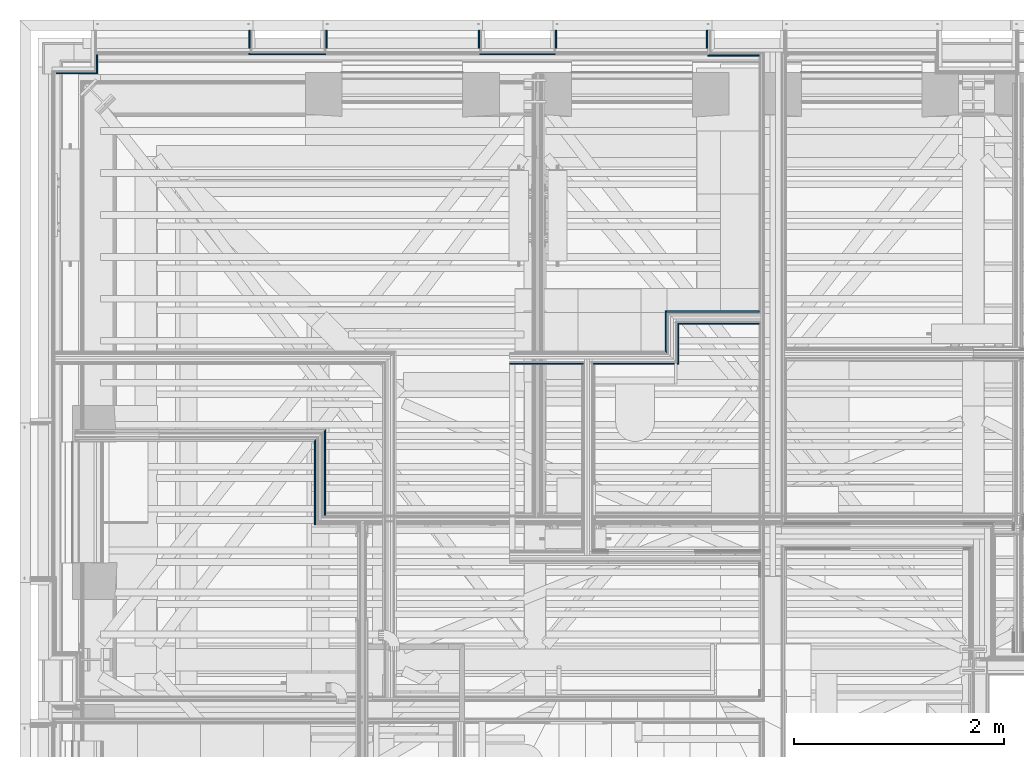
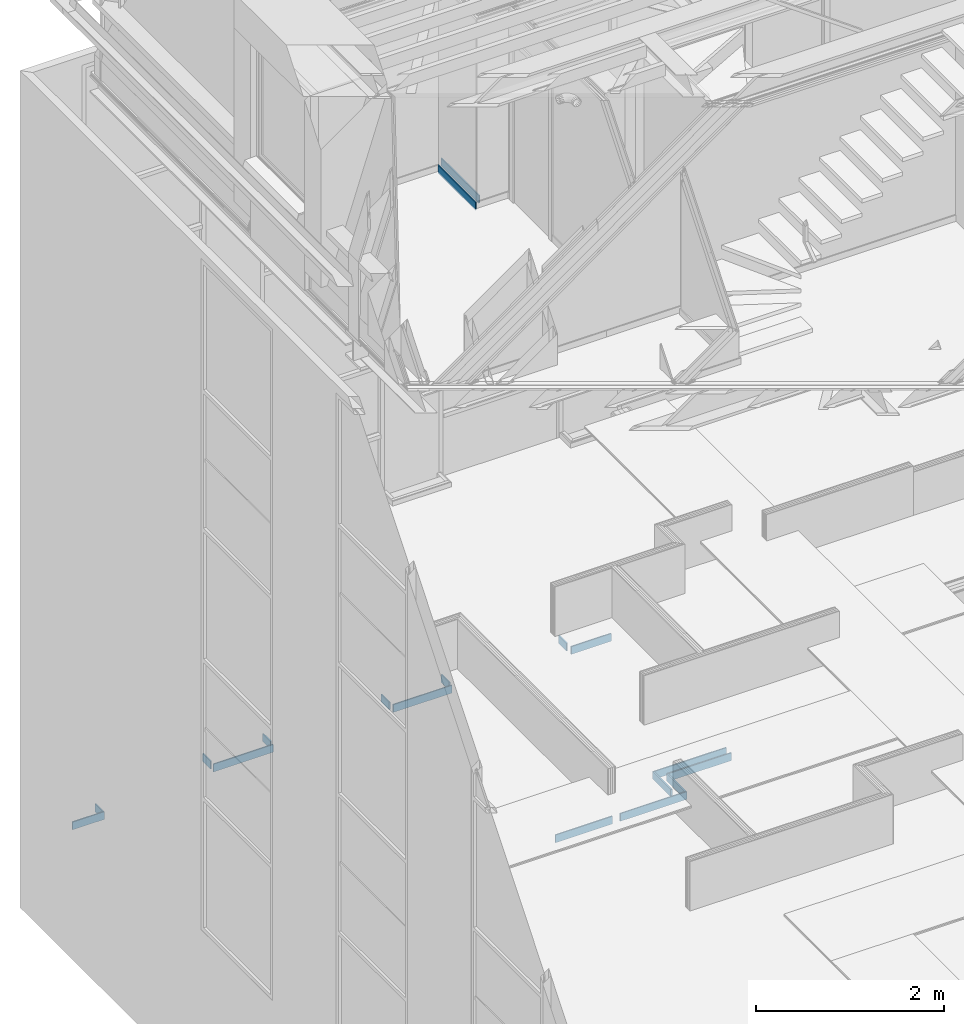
# One storey, part 72 of 183: 18 building element parts, 14 elements without a shape of their own.
"""IFC2X3 building model written with IfcOpenShell, lengths in metres."""

from ifc_helpers import new_model, entity, si_unit, converted_unit, derived_unit, money_unit, direction, frame, frame_2d, origin_with_axes, place, context, subcontext, project, spatial, polyline, rectangle, outline, extrude, material, type_object, element, aggregate, save


model = new_model("IFC2X3")

# Units and contexts
model_context = context("Model", 3, precision=1e-05, world=origin_with_axes(), true_north=direction((0.0, 1.0)))
body_context = subcontext(model_context, "Body", "Model", "MODEL_VIEW", scale=1.0)
ifc_project = project(units=[si_unit("LENGTHUNIT", "METRE"), si_unit("AREAUNIT", "SQUARE_METRE"), si_unit("VOLUMEUNIT", "CUBIC_METRE"), si_unit("ABSORBEDDOSEUNIT", "GRAY"), si_unit("AMOUNTOFSUBSTANCEUNIT", "MOLE"), si_unit("DOSEEQUIVALENTUNIT", "SIEVERT"), si_unit("ELECTRICCAPACITANCEUNIT", "FARAD"), si_unit("ELECTRICCHARGEUNIT", "COULOMB"), si_unit("ELECTRICCONDUCTANCEUNIT", "SIEMENS"), si_unit("ELECTRICCURRENTUNIT", "AMPERE"), si_unit("ELECTRICRESISTANCEUNIT", "OHM"), si_unit("ELECTRICVOLTAGEUNIT", "VOLT"), si_unit("ENERGYUNIT", "JOULE"), si_unit("FORCEUNIT", "NEWTON"), si_unit("FREQUENCYUNIT", "HERTZ"), si_unit("ILLUMINANCEUNIT", "LUX"), si_unit("INDUCTANCEUNIT", "HENRY"), si_unit("LUMINOUSFLUXUNIT", "LUMEN"), si_unit("LUMINOUSINTENSITYUNIT", "CANDELA"), si_unit("MAGNETICFLUXDENSITYUNIT", "TESLA"), si_unit("MAGNETICFLUXUNIT", "WEBER"), si_unit("MASSUNIT", "GRAM"), converted_unit("PLANEANGLEUNIT", "degree", entity("IfcReal", 0.0174532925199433), si_unit("PLANEANGLEUNIT", "RADIAN"), dimensions=[0, 0, 0, 0, 0, 0, 0]), si_unit("POWERUNIT", "WATT"), si_unit("PRESSUREUNIT", "PASCAL"), si_unit("RADIOACTIVITYUNIT", "BECQUEREL"), si_unit("SOLIDANGLEUNIT", "STERADIAN"), si_unit("THERMODYNAMICTEMPERATUREUNIT", "KELVIN"), si_unit("TIMEUNIT", "SECOND"), derived_unit("ACCELERATIONUNIT", [(si_unit("LENGTHUNIT", "METRE"), 1), (si_unit("TIMEUNIT", "SECOND"), -2)]), derived_unit("ANGULARVELOCITYUNIT", [(converted_unit("PLANEANGLEUNIT", "degree", entity("IfcReal", 0.0174532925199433), si_unit("PLANEANGLEUNIT", "RADIAN"), dimensions=[0, 0, 0, 0, 0, 0, 0]), 1), (si_unit("TIMEUNIT", "SECOND"), -1)]), derived_unit("CURVATUREUNIT", [(converted_unit("PLANEANGLEUNIT", "degree", entity("IfcReal", 0.0174532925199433), si_unit("PLANEANGLEUNIT", "RADIAN"), dimensions=[0, 0, 0, 0, 0, 0, 0]), 1), (si_unit("LENGTHUNIT", "METRE"), -1)]), derived_unit("DYNAMICVISCOSITYUNIT", [(si_unit("PRESSUREUNIT", "PASCAL"), 1), (si_unit("TIMEUNIT", "SECOND"), 1)]), derived_unit("HEATFLUXDENSITYUNIT", [(si_unit("POWERUNIT", "WATT"), 1), (si_unit("LENGTHUNIT", "METRE"), -2)]), derived_unit("HEATINGVALUEUNIT", [(si_unit("ENERGYUNIT", "JOULE"), 1), (si_unit("MASSUNIT", "GRAM"), -1)]), derived_unit("INTEGERCOUNTRATEUNIT", [(si_unit("TIMEUNIT", "SECOND"), -1)]), derived_unit("IONCONCENTRATIONUNIT", [(si_unit("MASSUNIT", "GRAM"), 1), (si_unit("VOLUMEUNIT", "CUBIC_METRE"), -1)]), derived_unit("ISOTHERMALMOISTURECAPACITYUNIT", [(si_unit("VOLUMEUNIT", "CUBIC_METRE"), 1), (si_unit("MASSUNIT", "GRAM"), -1)]), derived_unit("KINEMATICVISCOSITYUNIT", [(si_unit("AREAUNIT", "SQUARE_METRE"), 1), (si_unit("TIMEUNIT", "SECOND"), -1)]), derived_unit("LINEARFORCEUNIT", [(si_unit("FORCEUNIT", "NEWTON"), 1), (si_unit("LENGTHUNIT", "METRE"), -1)]), derived_unit("LINEARMOMENTUNIT", [(si_unit("FORCEUNIT", "NEWTON"), 1), (si_unit("LENGTHUNIT", "METRE"), -1)]), derived_unit("LINEARSTIFFNESSUNIT", [(si_unit("FORCEUNIT", "NEWTON"), 1), (si_unit("LENGTHUNIT", "METRE"), -1)]), derived_unit("LINEARVELOCITYUNIT", [(si_unit("LENGTHUNIT", "METRE"), 1), (si_unit("TIMEUNIT", "SECOND"), -1)]), derived_unit("LUMINOUSINTENSITYDISTRIBUTIONUNIT", [(si_unit("LUMINOUSINTENSITYUNIT", "CANDELA"), 1), (si_unit("LUMINOUSFLUXUNIT", "LUMEN"), -1)]), derived_unit("MASSDENSITYUNIT", [(si_unit("MASSUNIT", "GRAM"), 1), (si_unit("VOLUMEUNIT", "CUBIC_METRE"), -1)]), derived_unit("MASSFLOWRATEUNIT", [(si_unit("MASSUNIT", "GRAM"), 1), (si_unit("TIMEUNIT", "SECOND"), -1)]), derived_unit("MASSPERLENGTHUNIT", [(si_unit("MASSUNIT", "GRAM"), 1), (si_unit("LENGTHUNIT", "METRE"), -1)]), derived_unit("MODULUSOFELASTICITYUNIT", [(si_unit("FORCEUNIT", "NEWTON"), 1), (si_unit("AREAUNIT", "SQUARE_METRE"), -1)]), derived_unit("MODULUSOFLINEARSUBGRADEREACTIONUNIT", [(si_unit("FORCEUNIT", "NEWTON"), 1), (si_unit("LENGTHUNIT", "METRE"), -2)]), derived_unit("MODULUSOFROTATIONALSUBGRADEREACTIONUNIT", [(si_unit("FORCEUNIT", "NEWTON"), 1), (si_unit("LENGTHUNIT", "METRE"), 1)]), derived_unit("MODULUSOFSUBGRADEREACTIONUNIT", [(si_unit("FORCEUNIT", "NEWTON"), 1), (si_unit("VOLUMEUNIT", "CUBIC_METRE"), -1)]), derived_unit("MOISTUREDIFFUSIVITYUNIT", [(si_unit("VOLUMEUNIT", "CUBIC_METRE"), 1), (si_unit("TIMEUNIT", "SECOND"), -1)]), derived_unit("MOLECULARWEIGHTUNIT", [(si_unit("MASSUNIT", "GRAM"), 1), (si_unit("AMOUNTOFSUBSTANCEUNIT", "MOLE"), -1)]), derived_unit("PLANARFORCEUNIT", [(si_unit("FORCEUNIT", "NEWTON"), 1), (si_unit("LENGTHUNIT", "METRE"), -2)]), derived_unit("ROTATIONALFREQUENCYUNIT", [(si_unit("TIMEUNIT", "SECOND"), -1)]), derived_unit("ROTATIONALMASSUNIT", [(si_unit("MASSUNIT", "GRAM"), 1), (si_unit("LENGTHUNIT", "METRE"), 2)]), derived_unit("ROTATIONALSTIFFNESSUNIT", [(si_unit("FORCEUNIT", "NEWTON"), 1), (si_unit("LENGTHUNIT", "METRE"), 1), (converted_unit("PLANEANGLEUNIT", "degree", entity("IfcReal", 0.0174532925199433), si_unit("PLANEANGLEUNIT", "RADIAN"), dimensions=[0, 0, 0, 0, 0, 0, 0]), -1)]), derived_unit("SECTIONAREAINTEGRALUNIT", [(si_unit("LENGTHUNIT", "METRE"), 5)]), derived_unit("SECTIONMODULUSUNIT", [(si_unit("LENGTHUNIT", "METRE"), 3)]), derived_unit("SHEARMODULUSUNIT", [(si_unit("FORCEUNIT", "NEWTON"), 1), (si_unit("AREAUNIT", "SQUARE_METRE"), -1)]), derived_unit("SOUNDPOWERUNIT", [(si_unit("ENERGYUNIT", "JOULE"), 1), (si_unit("TIMEUNIT", "SECOND"), -1)]), derived_unit("SPECIFICHEATCAPACITYUNIT", [(si_unit("FORCEUNIT", "NEWTON"), 1), (si_unit("MASSUNIT", "GRAM"), -1), (si_unit("THERMODYNAMICTEMPERATUREUNIT", "KELVIN"), -1)]), derived_unit("TEMPERATUREGRADIENTUNIT", [(si_unit("THERMODYNAMICTEMPERATUREUNIT", "KELVIN"), 1), (si_unit("LENGTHUNIT", "METRE"), -1)]), derived_unit("THERMALADMITTANCEUNIT", [(si_unit("POWERUNIT", "WATT"), 1), (si_unit("AREAUNIT", "SQUARE_METRE"), -1), (si_unit("THERMODYNAMICTEMPERATUREUNIT", "KELVIN"), -1)]), derived_unit("THERMALCONDUCTANCEUNIT", [(si_unit("POWERUNIT", "WATT"), 1), (si_unit("LENGTHUNIT", "METRE"), -1), (si_unit("THERMODYNAMICTEMPERATUREUNIT", "KELVIN"), -1)]), derived_unit("THERMALEXPANSIONCOEFFICIENTUNIT", [(si_unit("THERMODYNAMICTEMPERATUREUNIT", "KELVIN"), -1)]), derived_unit("THERMALRESISTANCEUNIT", [(si_unit("AREAUNIT", "SQUARE_METRE"), 1), (si_unit("POWERUNIT", "WATT"), -1)]), derived_unit("THERMALTRANSMITTANCEUNIT", [(si_unit("POWERUNIT", "WATT"), 1), (si_unit("AREAUNIT", "SQUARE_METRE"), -1), (si_unit("THERMODYNAMICTEMPERATUREUNIT", "KELVIN"), -1)]), derived_unit("TORQUEUNIT", [(si_unit("FORCEUNIT", "NEWTON"), 1), (si_unit("LENGTHUNIT", "METRE"), 1)]), derived_unit("VAPORPERMEABILITYUNIT", [(si_unit("MASSUNIT", "GRAM"), 1), (si_unit("TIMEUNIT", "SECOND"), -1)]), derived_unit("VOLUMETRICFLOWRATEUNIT", [(si_unit("VOLUMEUNIT", "CUBIC_METRE"), 1), (si_unit("TIMEUNIT", "SECOND"), -1)]), derived_unit("WARPINGCONSTANTUNIT", [(si_unit("LENGTHUNIT", "METRE"), 6)]), derived_unit("WARPINGMOMENTUNIT", [(si_unit("FORCEUNIT", "NEWTON"), 1), (si_unit("LENGTHUNIT", "METRE"), 2)]), money_unit("GBP")], contexts=[model_context])

# Site, building, storey
site_placement = place(None, origin_with_axes())
site = spatial("IfcSite", under=ifc_project, at=site_placement, Name="Site", CompositionType="ELEMENT")
building_placement = place(site_placement, origin_with_axes())
building = spatial("IfcBuilding", under=site, at=building_placement, Name="Building01", CompositionType="ELEMENT")
storey_placement = place(building_placement, frame((0.0, 0.0, 5.15), z_axis=(0.0, 0.0, 1.0), x_axis=(1.0, 0.0, 0.0)))
storey = spatial("IfcBuildingStorey", under=building, at=storey_placement, Name="1F", CompositionType="ELEMENT", Elevation=5.15)

# Wall, building element parts
wall_type_1 = type_object("IfcWallType", Name="SHE_A-Walls_Type05a_Partition_95mm_tall", PredefinedType="NOTDEFINED")
wall_1_placement = place(storey_placement, frame((6.229669, 11.66567, 0.0), z_axis=(0.0, 0.0, 1.0), x_axis=(0.0, 1.0, 0.0)))
wall_1 = element("IfcWall", 1, at=wall_1_placement, inside=storey, type_object=wall_type_1, Name="5A", ObjectType="SHE_A-Walls_Type05a_Partition_95mm_tall")
ifc_material = material(Name="A_BSUK_Walls_Timber")
placement_1 = place(wall_1_placement, origin_with_axes())
building_element_part_1 = element("IfcBuildingElementPart", 2, at=placement_1, material=ifc_material, Name="1", context=body_context, shape_type="SweptSolid", body=[
    extrude(outline(polyline([(0.35, -0.035), (-0.035, -0.035), (-0.05, -0.05), (0.335, -0.05), (0.35, -0.035)])), frame((0.0, 0.0, 0.015), z_axis=(0.0, 0.0, 1.0), x_axis=(1.0, 0.0, 0.0)), (0.0, 0.0, 1.0), 0.1),
])
building_element_part_2 = element("IfcBuildingElementPart", 3, at=placement_1, material=ifc_material, Name="7", context=body_context, shape_type="SweptSolid", body=[
    extrude(outline(polyline([(0.46, 0.075), (0.075, 0.075), (0.06, 0.06), (0.445, 0.06), (0.46, 0.075)])), frame((0.0, 0.0, 0.015), z_axis=(0.0, 0.0, 1.0), x_axis=(1.0, 0.0, 0.0)), (0.0, 0.0, 1.0), 0.1),
])
aggregate(wall_1, [building_element_part_1, building_element_part_2])

wall_2_placement = place(storey_placement, frame((6.229669, 12.05067, 0.0), z_axis=(0.0, 0.0, 1.0), x_axis=(1.0, 0.0, 0.0)))
wall_2 = element("IfcWall", 4, at=wall_2_placement, inside=storey, type_object=wall_type_1, Name="5A", ObjectType="SHE_A-Walls_Type05a_Partition_95mm_tall")
placement_2 = place(wall_2_placement, origin_with_axes())
building_element_part_3 = element("IfcBuildingElementPart", 5, at=placement_2, material=ifc_material, Name="1", context=body_context, shape_type="SweptSolid", body=[
    extrude(outline(polyline([(0.82, -0.035), (0.035, -0.035), (0.05, -0.05), (0.82, -0.05), (0.82, -0.035)])), frame((0.0, 0.0, 0.015), z_axis=(0.0, 0.0, 1.0), x_axis=(1.0, 0.0, 0.0)), (0.0, 0.0, 1.0), 0.1),
])
building_element_part_4 = element("IfcBuildingElementPart", 6, at=placement_2, material=ifc_material, Name="7", context=body_context, shape_type="SweptSolid", body=[
    extrude(outline(polyline([(0.82, 0.075), (-0.075, 0.075), (-0.06, 0.06), (0.82, 0.06), (0.82, 0.075)])), frame((0.0, 0.0, 0.015), z_axis=(0.0, 0.0, 1.0), x_axis=(1.0, 0.0, 0.0)), (0.0, 0.0, 1.0), 0.1),
])
aggregate(wall_2, [building_element_part_3, building_element_part_4])

wall_3_placement = place(storey_placement, frame((4.669669, 11.66567, 0.0), z_axis=(0.0, 0.0, 1.0), x_axis=(1.0, 0.0, 0.0)))
wall_3 = element("IfcWall", 7, at=wall_3_placement, inside=storey, type_object=wall_type_1, Name="5A", ObjectType="SHE_A-Walls_Type05a_Partition_95mm_tall")
placement_3 = place(wall_3_placement, origin_with_axes())
building_element_part_5 = element("IfcBuildingElementPart", 8, at=placement_3, material=ifc_material, Name="1", context=body_context, shape_type="SweptSolid", body=[
    extrude(rectangle(XDim=0.7, YDim=0.015, at=frame_2d((0.35, -0.0425), x_axis=(-1.0, 0.0))), frame((0.0, 0.0, 0.015), z_axis=(0.0, 0.0, 1.0), x_axis=(1.0, 0.0, 0.0)), (0.0, 0.0, 1.0), 0.1),
])
building_element_part_6 = element("IfcBuildingElementPart", 9, at=placement_3, material=ifc_material, Name="2", context=body_context, shape_type="SweptSolid", body=[
    extrude(outline(polyline([(1.595, -0.035), (0.795, -0.035), (0.795, -0.05), (1.61, -0.05), (1.595, -0.035)])), frame((0.0, 0.0, 0.015), z_axis=(0.0, 0.0, 1.0), x_axis=(1.0, 0.0, 0.0)), (0.0, 0.0, 1.0), 0.1),
])
aggregate(wall_3, [building_element_part_5, building_element_part_6])

# Wall, building element part
wall_type_2 = type_object("IfcWallType", Name="SHE_A-Walls_Type06f_ExternalWallInsulation_48+15mm", PredefinedType="NOTDEFINED")
wall_4_placement = place(storey_placement, frame((6.605, 14.612, 0.0), z_axis=(0.0, 0.0, 1.0), x_axis=(0.0, 1.0, 0.0)))
wall_4 = element("IfcWall", 10, at=wall_4_placement, inside=storey, type_object=wall_type_2, Name="6F", ObjectType="SHE_A-Walls_Type06f_ExternalWallInsulation_48+15mm")
building_element_part_7_placement = place(wall_4_placement, origin_with_axes())
building_element_part_7 = element("IfcBuildingElementPart", 11, at=building_element_part_7_placement, material=ifc_material, Name="4", context=body_context, shape_type="SweptSolid", body=[
    extrude(rectangle(XDim=0.168993, YDim=0.015, at=frame_2d((0.103503, 0.0525), x_axis=(1.0, 0.0))), frame((0.0, 0.0, 0.015), z_axis=(0.0, 0.0, 1.0), x_axis=(1.0, 0.0, 0.0)), (0.0, 0.0, 1.0), 0.1),
])
aggregate(wall_4, [building_element_part_7])

wall_5_placement = place(storey_placement, frame((7.283, 14.612, 0.0), z_axis=(0.0, 0.0, 1.0), x_axis=(-1.0, 0.0, 0.0)))
wall_5 = element("IfcWall", 12, at=wall_5_placement, inside=storey, type_object=wall_type_2, Name="6F", ObjectType="SHE_A-Walls_Type06f_ExternalWallInsulation_48+15mm")
building_element_part_8_placement = place(wall_5_placement, origin_with_axes())
building_element_part_8 = element("IfcBuildingElementPart", 13, at=building_element_part_8_placement, material=ifc_material, Name="7", context=body_context, shape_type="SweptSolid", body=[
    extrude(rectangle(XDim=0.015, YDim=0.489793, at=frame_2d((0.478228, 0.0525), x_axis=(0.0, -1.0))), frame((0.0, 0.0, 0.015), z_axis=(0.0, 0.0, 1.0), x_axis=(1.0, 0.0, 0.0)), (0.0, 0.0, 1.0), 0.1),
])
aggregate(wall_5, [building_element_part_8])

wall_type_3 = type_object("IfcWallType", Name="SHE_A-Walls_Type06d_ExternalWallInsulation_48mm", PredefinedType="NOTDEFINED")
wall_6_placement = place(storey_placement, frame((5.093, 14.63, 0.0), z_axis=(0.0, 0.0, 1.0), x_axis=(0.0, 1.0, 0.0)))
wall_6 = element("IfcWall", 14, at=wall_6_placement, inside=storey, type_object=wall_type_3, Name="6D", ObjectType="SHE_A-Walls_Type06d_ExternalWallInsulation_48mm")
building_element_part_9_placement = place(wall_6_placement, origin_with_axes())
building_element_part_9 = element("IfcBuildingElementPart", 15, at=building_element_part_9_placement, material=ifc_material, Name="1", context=body_context, shape_type="SweptSolid", body=[
    extrude(rectangle(XDim=0.17, YDim=0.015, at=frame_2d((0.085, -0.0195), x_axis=(1.0, 0.0))), frame((0.0, 0.0, 0.015), z_axis=(0.0, 0.0, 1.0), x_axis=(1.0, 0.0, 0.0)), (0.0, 0.0, 1.0), 0.1),
])
aggregate(wall_6, [building_element_part_9])

wall_7_placement = place(storey_placement, frame((5.093, 14.63, 0.0), z_axis=(0.0, 0.0, 1.0), x_axis=(-1.0, 0.0, 0.0)))
wall_7 = element("IfcWall", 16, at=wall_7_placement, inside=storey, type_object=wall_type_3, Name="6D", ObjectType="SHE_A-Walls_Type06d_ExternalWallInsulation_48mm")
building_element_part_10_placement = place(wall_7_placement, origin_with_axes())
building_element_part_10 = element("IfcBuildingElementPart", 17, at=building_element_part_10_placement, material=ifc_material, Name="3", context=body_context, shape_type="SweptSolid", body=[
    extrude(rectangle(XDim=0.72, YDim=0.015, at=frame_2d((0.348, 0.0555), x_axis=(1.0, 0.0))), frame((0.0, 0.0, 0.015), z_axis=(0.0, 0.0, 1.0), x_axis=(1.0, 0.0, 0.0)), (0.0, 0.0, 1.0), 0.1),
])
aggregate(wall_7, [building_element_part_10])

wall_8_placement = place(storey_placement, frame((4.397, 14.63, 0.0), z_axis=(0.0, 0.0, 1.0), x_axis=(0.0, 1.0, 0.0)))
wall_8 = element("IfcWall", 18, at=wall_8_placement, inside=storey, type_object=wall_type_3, Name="6D", ObjectType="SHE_A-Walls_Type06d_ExternalWallInsulation_48mm")
building_element_part_11_placement = place(wall_8_placement, origin_with_axes())
building_element_part_11 = element("IfcBuildingElementPart", 19, at=building_element_part_11_placement, material=ifc_material, Name="3", context=body_context, shape_type="SweptSolid", body=[
    extrude(rectangle(XDim=0.17, YDim=0.015, at=frame_2d((0.085, 0.0195), x_axis=(1.0, 0.0))), frame((0.0, 0.0, 0.015), z_axis=(0.0, 0.0, 1.0), x_axis=(1.0, 0.0, 0.0)), (0.0, 0.0, 1.0), 0.1),
])
aggregate(wall_8, [building_element_part_11])

wall_9_placement = place(storey_placement, frame((2.903, 14.63, 0.0), z_axis=(0.0, 0.0, 1.0), x_axis=(0.0, 1.0, 0.0)))
wall_9 = element("IfcWall", 20, at=wall_9_placement, inside=storey, type_object=wall_type_3, Name="6D", ObjectType="SHE_A-Walls_Type06d_ExternalWallInsulation_48mm")
building_element_part_12_placement = place(wall_9_placement, origin_with_axes())
building_element_part_12 = element("IfcBuildingElementPart", 21, at=building_element_part_12_placement, material=ifc_material, Name="1", context=body_context, shape_type="SweptSolid", body=[
    extrude(rectangle(XDim=0.17, YDim=0.015, at=frame_2d((0.085, -0.0195), x_axis=(1.0, 0.0))), frame((0.0, 0.0, 0.015), z_axis=(0.0, 0.0, 1.0), x_axis=(1.0, 0.0, 0.0)), (0.0, 0.0, 1.0), 0.1),
])
aggregate(wall_9, [building_element_part_12])

wall_10_placement = place(storey_placement, frame((2.903, 14.63, 0.0), z_axis=(0.0, 0.0, 1.0), x_axis=(-1.0, 0.0, 0.0)))
wall_10 = element("IfcWall", 22, at=wall_10_placement, inside=storey, type_object=wall_type_3, Name="6D", ObjectType="SHE_A-Walls_Type06d_ExternalWallInsulation_48mm")
building_element_part_13_placement = place(wall_10_placement, origin_with_axes())
building_element_part_13 = element("IfcBuildingElementPart", 23, at=building_element_part_13_placement, material=ifc_material, Name="3", context=body_context, shape_type="SweptSolid", body=[
    extrude(rectangle(XDim=0.735, YDim=0.015, at=frame_2d((0.3555, 0.0555), x_axis=(1.0, 0.0))), frame((0.0, 0.0, 0.015), z_axis=(0.0, 0.0, 1.0), x_axis=(1.0, 0.0, 0.0)), (0.0, 0.0, 1.0), 0.1),
])
aggregate(wall_10, [building_element_part_13])

wall_11_placement = place(storey_placement, frame((2.207, 14.63, 0.0), z_axis=(0.0, 0.0, 1.0), x_axis=(0.0, 1.0, 0.0)))
wall_11 = element("IfcWall", 24, at=wall_11_placement, inside=storey, type_object=wall_type_3, Name="6D", ObjectType="SHE_A-Walls_Type06d_ExternalWallInsulation_48mm")
building_element_part_14_placement = place(wall_11_placement, origin_with_axes())
building_element_part_14 = element("IfcBuildingElementPart", 25, at=building_element_part_14_placement, material=ifc_material, Name="3", context=body_context, shape_type="SweptSolid", body=[
    extrude(rectangle(XDim=0.169655, YDim=0.015, at=frame_2d((0.085172, 0.0195), x_axis=(1.0, 0.0))), frame((0.0, 0.0, 0.015), z_axis=(0.0, 0.0, 1.0), x_axis=(1.0, 0.0, 0.0)), (0.0, 0.0, 1.0), 0.1),
])
aggregate(wall_11, [building_element_part_14])

wall_12_placement = place(storey_placement, frame((0.677, 14.800002, 0.0), z_axis=(0.0, 0.0, 1.0), x_axis=(0.0, -1.0, 0.0)))
wall_12 = element("IfcWall", 26, at=wall_12_placement, inside=storey, type_object=wall_type_3, Name="6D", ObjectType="SHE_A-Walls_Type06d_ExternalWallInsulation_48mm")
building_element_part_15_placement = place(wall_12_placement, origin_with_axes())
building_element_part_15 = element("IfcBuildingElementPart", 27, at=building_element_part_15_placement, material=ifc_material, Name="3", context=body_context, shape_type="SweptSolid", body=[
    extrude(outline(polyline([(0.413002, 0.063), (0.233002, 0.063), (0.233002, 0.048), (0.398002, 0.048), (0.413002, 0.063)])), frame((0.0, 0.0, 0.015), z_axis=(0.0, 0.0, 1.0), x_axis=(1.0, 0.0, 0.0)), (0.0, 0.0, 1.0), 0.1),
])
aggregate(wall_12, [building_element_part_15])

wall_13_placement = place(storey_placement, frame((0.713, 14.45, 0.0), z_axis=(0.0, 0.0, 1.0), x_axis=(-1.0, 0.0, 0.0)))
wall_13 = element("IfcWall", 28, at=wall_13_placement, inside=storey, type_object=wall_type_3, Name="6D", ObjectType="SHE_A-Walls_Type06d_ExternalWallInsulation_48mm")
building_element_part_16_placement = place(wall_13_placement, origin_with_axes())
building_element_part_16 = element("IfcBuildingElementPart", 29, at=building_element_part_16_placement, material=ifc_material, Name="3", context=body_context, shape_type="SweptSolid", body=[
    extrude(outline(polyline([(0.365, 0.063), (-0.027, 0.063), (-0.012, 0.048), (0.365, 0.048), (0.365, 0.063)])), frame((0.0, 0.0, 0.015), z_axis=(0.0, 0.0, 1.0), x_axis=(1.0, 0.0, 0.0)), (0.0, 0.0, 1.0), 0.1),
])
aggregate(wall_13, [building_element_part_16])

# Wall, building element parts
wall_type_4 = type_object("IfcWallType", Name="SHE_A-Walls_Type05b_Partition_80mm", PredefinedType="NOTDEFINED")
wall_14_placement = place(storey_placement, frame((2.872, 10.126939, 9.78), z_axis=(0.0, 0.0, 1.0), x_axis=(0.0, 1.0, 0.0)))
wall_14 = element("IfcWall", 30, at=wall_14_placement, inside=storey, type_object=wall_type_4, Name="5B", ObjectType="SHE_A-Walls_Type05b_Partition_80mm")
placement_4 = place(wall_14_placement, origin_with_axes())
building_element_part_17 = element("IfcBuildingElementPart", 31, at=placement_4, material=ifc_material, Name="1", context=body_context, shape_type="SweptSolid", body=[
    extrude(outline(polyline([(0.852976, -0.028), (0.053, -0.028), (0.053, -0.043), (0.867976, -0.043), (0.852976, -0.028)])), frame((0.0, 0.0, 0.015), z_axis=(0.0, 0.0, 1.0), x_axis=(1.0, 0.0, 0.0)), (0.0, 0.0, 1.0), 0.1),
])
building_element_part_18 = element("IfcBuildingElementPart", 32, at=placement_4, material=ifc_material, Name="7", context=body_context, shape_type="SweptSolid", body=[
    extrude(outline(polyline([(0.757976, 0.067), (-0.042, 0.067), (-0.042, 0.052), (0.772976, 0.052), (0.757976, 0.067)])), frame((0.0, 0.0, 0.015), z_axis=(0.0, 0.0, 1.0), x_axis=(1.0, 0.0, 0.0)), (0.0, 0.0, 1.0), 0.1),
])
aggregate(wall_14, [building_element_part_17, building_element_part_18])

save(model, "model.ifc")
